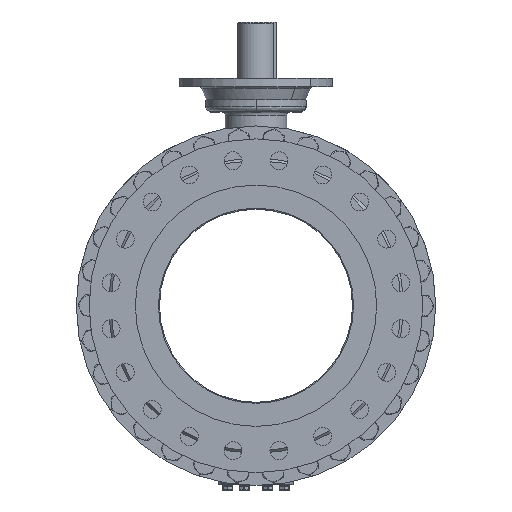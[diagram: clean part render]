
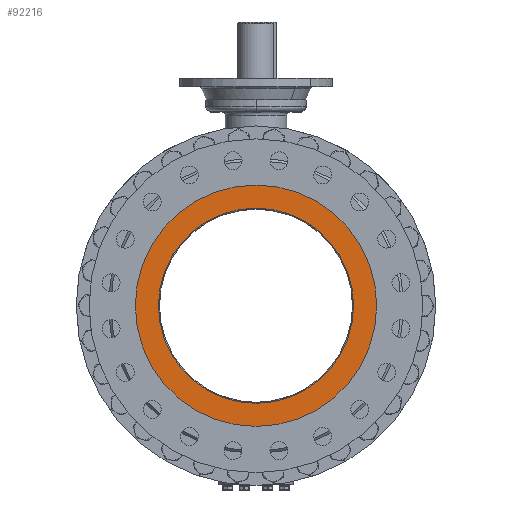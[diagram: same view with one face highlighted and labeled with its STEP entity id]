
A CAD part, left-side view. The second image highlights one B-rep face of the part: STEP entity #92216.
In plain terms, the highlighted planar face has unit normal (-1, 0, 0).
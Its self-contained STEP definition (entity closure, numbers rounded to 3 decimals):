
#14677=CARTESIAN_POINT('',(-419.,0.,0.));
#14678=DIRECTION('',(1.,0.,0.));
#14679=DIRECTION('',(0.,0.,1.));
#14680=AXIS2_PLACEMENT_3D('',#14677,#14678,#14679);
#14682=CARTESIAN_POINT('',(-419.,0.,0.));
#14683=DIRECTION('',(-1.,0.,0.));
#14684=DIRECTION('',(0.,0.,1.));
#14685=AXIS2_PLACEMENT_3D('',#14682,#14683,#14684);
#14687=CARTESIAN_POINT('',(-419.,0.,0.));
#14688=DIRECTION('',(-1.,0.,0.));
#14689=DIRECTION('',(0.,0.,1.));
#14690=AXIS2_PLACEMENT_3D('',#14687,#14688,#14689);
#14700=CARTESIAN_POINT('',(-419.,0.,0.));
#14701=DIRECTION('',(1.,0.,0.));
#14702=DIRECTION('',(0.,0.,1.));
#14703=AXIS2_PLACEMENT_3D('',#14700,#14701,#14702);
#64194=CARTESIAN_POINT('',(-419.,0.,190.));
#64196=VERTEX_POINT('',#64194);
#64202=CARTESIAN_POINT('',(-419.,0.,-190.));
#64204=VERTEX_POINT('',#64202);
#64353=CARTESIAN_POINT('',(-419.,0.,234.95));
#64355=VERTEX_POINT('',#64353);
#64357=CARTESIAN_POINT('',(-419.,0.,-234.95));
#64359=VERTEX_POINT('',#64357);
#92201=CARTESIAN_POINT('',(-419.,0.,0.));
#92202=DIRECTION('',(-1.,0.,0.));
#92203=DIRECTION('',(0.,0.,-1.));
#92204=AXIS2_PLACEMENT_3D('',#92201,#92202,#92203);
#92205=PLANE('',#92204);
#92207=ORIENTED_EDGE('',*,*,#92206,.F.);
#92209=ORIENTED_EDGE('',*,*,#92208,.T.);
#92210=EDGE_LOOP('',(#92207,#92209));
#92211=FACE_OUTER_BOUND('',#92210,.F.);
#92212=ORIENTED_EDGE('',*,*,#92180,.F.);
#92213=ORIENTED_EDGE('',*,*,#92196,.T.);
#92214=EDGE_LOOP('',(#92212,#92213));
#92215=FACE_BOUND('',#92214,.F.);
#92216=ADVANCED_FACE('',(#92211,#92215),#92205,.T.);
#14681=CIRCLE('',#14680,190.);
#14686=CIRCLE('',#14685,190.);
#14691=CIRCLE('',#14690,234.95);
#14704=CIRCLE('',#14703,234.95);
#92180=EDGE_CURVE('',#64196,#64204,#14681,.T.);
#92196=EDGE_CURVE('',#64196,#64204,#14686,.T.);
#92206=EDGE_CURVE('',#64355,#64359,#14691,.T.);
#92208=EDGE_CURVE('',#64355,#64359,#14704,.T.);
